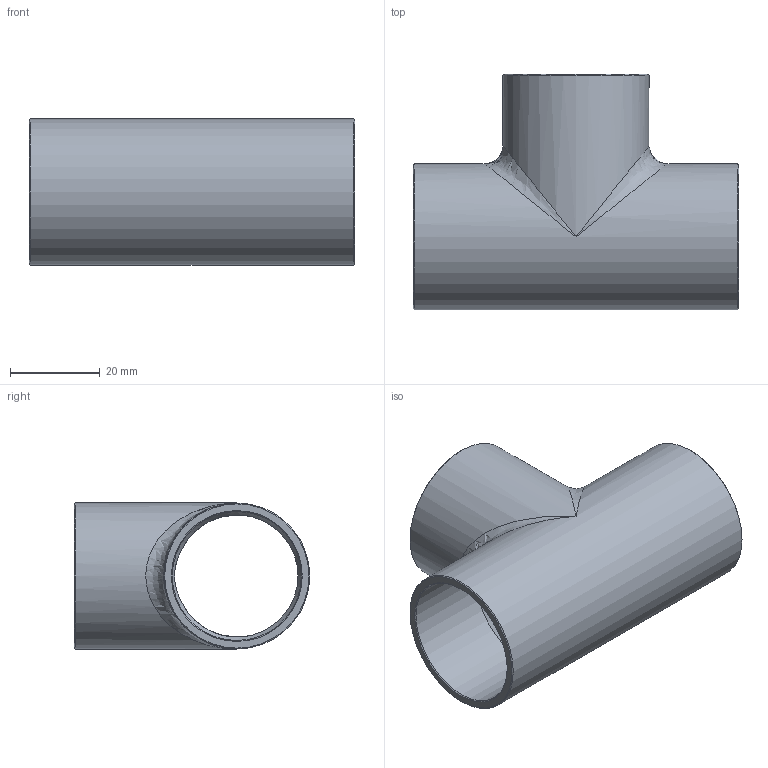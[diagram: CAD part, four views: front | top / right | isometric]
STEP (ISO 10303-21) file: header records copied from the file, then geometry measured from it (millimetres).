
FILE_DESCRIPTION((''),'2;1');
FILE_NAME('G:\SANHA-Ternat\Technik\Management\Bouwmaten + markeringen\z-maattekeningen 3D\29000s\29130118_3d.stp','2017-07-26T15:53:49',('vdvijverd'),(''),'Autodesk Inventor 2009','Autodesk Inventor 2009','');
FILE_SCHEMA(('AUTOMOTIVE_DESIGN { 1 0 10303 214 1 1 1 1 }'));
Length unit declared in the file: millimetre
Products named in the file (1): 29130118_3d
Bounding box: 72.4 x 52.45 x 32.5 mm (x, y, z)
Volume: 18283.6 mm3; surface area: 17479.9 mm2
Topology: 1 solids, 1 shells, 24 faces, 70 edges, 39 vertices
Faces by surface type: cone 8, cylinder 7, bspline 6, plane 3
Full cylindrical faces by diameter (mm): 28.725 x2, 32.5 x2
Entity records: 1574 total; most frequent: CARTESIAN_POINT 1049, DIRECTION 112, ORIENTED_EDGE 82, AXIS2_PLACEMENT_3D 56, EDGE_LOOP 42, EDGE_CURVE 41, VERTEX_POINT 33, FACE_OUTER_BOUND 24
